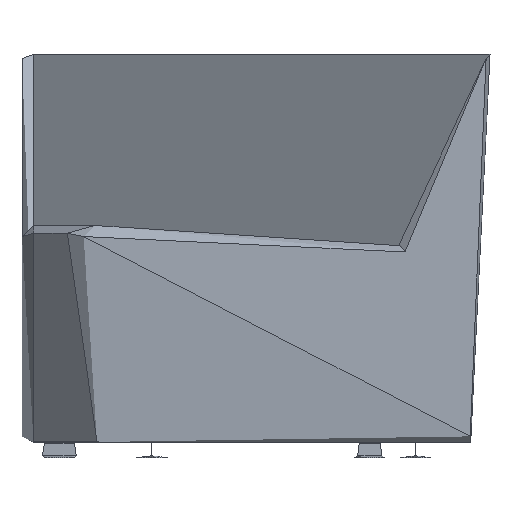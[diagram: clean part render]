
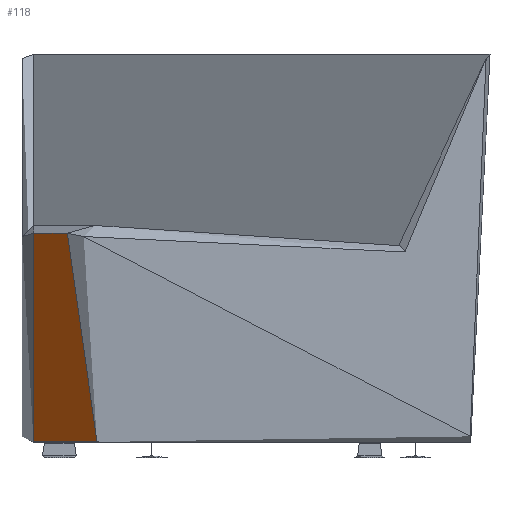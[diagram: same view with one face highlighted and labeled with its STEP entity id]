
A CAD part, front view. The second image highlights one B-rep face of the part: STEP entity #118.
In plain terms, the highlighted free-form (B-spline) face has degree [1, 3] with [2, 12] control points.
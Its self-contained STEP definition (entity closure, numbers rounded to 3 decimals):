
#118=ADVANCED_FACE('',(#159),#599,.T.);
#159=FACE_OUTER_BOUND('',#200,.T.);
#200=EDGE_LOOP('',(#267,#268,#269,#270));
#267=ORIENTED_EDGE('',*,*,#414,.F.);
#268=ORIENTED_EDGE('',*,*,#415,.T.);
#269=ORIENTED_EDGE('',*,*,#416,.T.);
#270=ORIENTED_EDGE('',*,*,#417,.T.);
#414=EDGE_CURVE('',#547,#548,#508,.T.);
#415=EDGE_CURVE('',#547,#549,#509,.T.);
#416=EDGE_CURVE('',#549,#550,#510,.T.);
#417=EDGE_CURVE('',#550,#548,#511,.T.);
#508=B_SPLINE_CURVE_WITH_KNOTS('',1,(#11821,#11822),.UNSPECIFIED.,.F.,.F.,
(2,2),(-1.,0.),.UNSPECIFIED.);
#509=B_SPLINE_CURVE_WITH_KNOTS('',3,(#11823,#11824,#11825,#11826,#11827,
#11828,#11829,#11830,#11831,#11832,#11833,#11834),.UNSPECIFIED.,.F.,.F.,
(4,2,2,1,1,1,1,4),(-139.616,-139.366,-139.116,
-138.616,-137.616,-136.616,-136.116,
-135.866),.UNSPECIFIED.);
#510=B_SPLINE_CURVE_WITH_KNOTS('',1,(#11835,#11836),.UNSPECIFIED.,.F.,.F.,
(2,2),(-1.,0.),.UNSPECIFIED.);
#511=B_SPLINE_CURVE_WITH_KNOTS('',3,(#11837,#11838,#11839,#11840,#11841,
#11842,#11843,#11844,#11845,#11846,#11847,#11848),.UNSPECIFIED.,.F.,.F.,
(4,1,1,1,1,2,2,4),(135.866,136.116,136.616,137.616,
138.616,139.116,139.366,139.616),
 .UNSPECIFIED.);
#547=VERTEX_POINT('',#11721);
#548=VERTEX_POINT('',#11722);
#549=VERTEX_POINT('',#11723);
#550=VERTEX_POINT('',#11724);
#599=B_SPLINE_SURFACE_WITH_KNOTS('',1,3,((#6587,#6588,#6589,#6590,#6591,
#6592,#6593,#6594,#6595,#6596,#6597,#6598),(#6599,#6600,#6601,#6602,#6603,
#6604,#6605,#6606,#6607,#6608,#6609,#6610)),.UNSPECIFIED.,.F.,.F.,.F.,(2,
2),(4,2,2,1,1,1,1,4),(0.,1.),(-139.616,-139.366,-139.116,
-138.616,-137.616,-136.616,-136.116,
-135.866),.UNSPECIFIED.);
#6587=CARTESIAN_POINT('',(-439.,-328.688,27.363));
#6588=CARTESIAN_POINT('',(-439.,-335.282,27.953));
#6589=CARTESIAN_POINT('',(-439.,-340.323,28.692));
#6590=CARTESIAN_POINT('',(-439.,-348.185,31.18));
#6591=CARTESIAN_POINT('',(-439.,-351.006,32.93));
#6592=CARTESIAN_POINT('',(-439.,-357.472,40.774));
#6593=CARTESIAN_POINT('',(-439.,-362.409,66.831));
#6594=CARTESIAN_POINT('',(-439.,-383.893,205.105));
#6595=CARTESIAN_POINT('',(-439.,-384.554,330.458));
#6596=CARTESIAN_POINT('',(-439.,-386.405,375.245));
#6597=CARTESIAN_POINT('',(-439.,-382.281,387.073));
#6598=CARTESIAN_POINT('',(-439.,-380.07,390.299));
#6599=CARTESIAN_POINT('',(-328.688,-439.,27.363));
#6600=CARTESIAN_POINT('',(-335.282,-439.,27.953));
#6601=CARTESIAN_POINT('',(-340.323,-439.,28.692));
#6602=CARTESIAN_POINT('',(-348.185,-439.,31.18));
#6603=CARTESIAN_POINT('',(-351.006,-439.,32.93));
#6604=CARTESIAN_POINT('',(-357.472,-439.,40.774));
#6605=CARTESIAN_POINT('',(-362.409,-439.,66.831));
#6606=CARTESIAN_POINT('',(-383.893,-439.,205.105));
#6607=CARTESIAN_POINT('',(-384.554,-439.,330.458));
#6608=CARTESIAN_POINT('',(-386.405,-439.,375.245));
#6609=CARTESIAN_POINT('',(-382.281,-439.,387.073));
#6610=CARTESIAN_POINT('',(-380.07,-439.,390.299));
#11721=CARTESIAN_POINT('',(-328.688,-439.,27.363));
#11722=CARTESIAN_POINT('',(-439.,-328.688,27.363));
#11723=CARTESIAN_POINT('',(-380.07,-439.,390.299));
#11724=CARTESIAN_POINT('',(-439.,-380.07,390.299));
#11821=CARTESIAN_POINT('',(-328.688,-439.,27.363));
#11822=CARTESIAN_POINT('',(-439.,-328.688,27.363));
#11823=CARTESIAN_POINT('',(-328.688,-439.,27.363));
#11824=CARTESIAN_POINT('',(-335.282,-439.,27.953));
#11825=CARTESIAN_POINT('',(-340.323,-439.,28.692));
#11826=CARTESIAN_POINT('',(-348.185,-439.,31.18));
#11827=CARTESIAN_POINT('',(-351.006,-439.,32.93));
#11828=CARTESIAN_POINT('',(-357.472,-439.,40.774));
#11829=CARTESIAN_POINT('',(-362.409,-439.,66.831));
#11830=CARTESIAN_POINT('',(-383.893,-439.,205.105));
#11831=CARTESIAN_POINT('',(-384.554,-439.,330.458));
#11832=CARTESIAN_POINT('',(-386.405,-439.,375.245));
#11833=CARTESIAN_POINT('',(-382.281,-439.,387.073));
#11834=CARTESIAN_POINT('',(-380.07,-439.,390.299));
#11835=CARTESIAN_POINT('',(-380.07,-439.,390.299));
#11836=CARTESIAN_POINT('',(-439.,-380.07,390.299));
#11837=CARTESIAN_POINT('',(-439.,-380.07,390.299));
#11838=CARTESIAN_POINT('',(-439.,-382.281,387.073));
#11839=CARTESIAN_POINT('',(-439.,-386.405,375.245));
#11840=CARTESIAN_POINT('',(-439.,-384.554,330.458));
#11841=CARTESIAN_POINT('',(-439.,-383.893,205.105));
#11842=CARTESIAN_POINT('',(-439.,-362.409,66.831));
#11843=CARTESIAN_POINT('',(-439.,-357.472,40.774));
#11844=CARTESIAN_POINT('',(-439.,-351.006,32.93));
#11845=CARTESIAN_POINT('',(-439.,-348.185,31.18));
#11846=CARTESIAN_POINT('',(-439.,-340.323,28.692));
#11847=CARTESIAN_POINT('',(-439.,-335.282,27.953));
#11848=CARTESIAN_POINT('',(-439.,-328.688,27.363));
